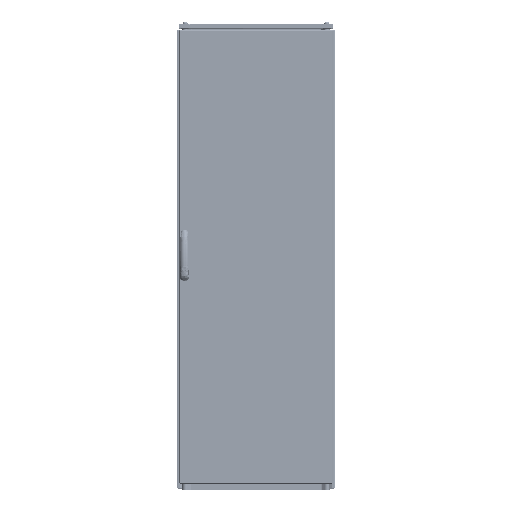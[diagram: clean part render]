
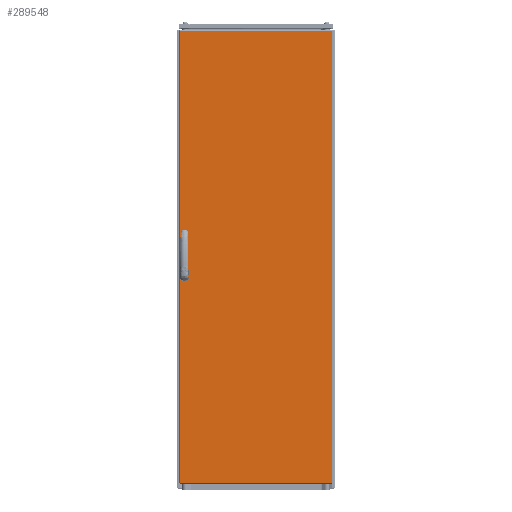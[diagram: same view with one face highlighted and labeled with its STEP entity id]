
A CAD part, top view. The second image highlights one B-rep face of the part: STEP entity #289548.
In plain terms, the highlighted planar face has unit normal (0, 0, 1).
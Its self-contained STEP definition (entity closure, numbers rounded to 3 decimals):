
#128 = VERTEX_POINT ( 'NONE', #95758 ) ;
#3573 = FACE_BOUND ( 'NONE', #244782, .T. ) ;
#5039 = PLANE ( 'NONE',  #92203 ) ;
#5046 = VECTOR ( 'NONE', #49650, 1000. ) ;
#14065 = CARTESIAN_POINT ( 'NONE',  ( 3., 3., 19. ) ) ;
#20223 = CARTESIAN_POINT ( 'NONE',  ( 28.7, 847.75, 19. ) ) ;
#24473 = CIRCLE ( 'NONE', #169659, 9.5 ) ;
#26195 = CARTESIAN_POINT ( 'NONE',  ( 9.7, 847.75, 19. ) ) ;
#29169 = DIRECTION ( 'NONE',  ( 0., 1., 0. ) ) ;
#29932 = CARTESIAN_POINT ( 'NONE',  ( 0., 3., 19. ) ) ;
#37055 = AXIS2_PLACEMENT_3D ( 'NONE', #47705, #159071, #205890 ) ;
#44498 = LINE ( 'NONE', #224695, #155573 ) ;
#47705 = CARTESIAN_POINT ( 'NONE',  ( 19.2, 799.75, 19. ) ) ;
#49075 = CARTESIAN_POINT ( 'NONE',  ( 0., 1760., 19. ) ) ;
#49240 = VECTOR ( 'NONE', #205917, 1000. ) ;
#49650 = DIRECTION ( 'NONE',  ( 0., -1., 0. ) ) ;
#51849 = ORIENTED_EDGE ( 'NONE', *, *, #237256, .F. ) ;
#54220 = CIRCLE ( 'NONE', #147738, 9.5 ) ;
#55984 = EDGE_CURVE ( 'NONE', #206019, #263860, #74028, .T. ) ;
#56935 = DIRECTION ( 'NONE',  ( 1., 0., 0. ) ) ;
#58014 = VERTEX_POINT ( 'NONE', #95298 ) ;
#62531 = CARTESIAN_POINT ( 'NONE',  ( 28.7, 912.25, 19. ) ) ;
#62631 = CARTESIAN_POINT ( 'NONE',  ( 28.7, 847.75, 19. ) ) ;
#64601 = VECTOR ( 'NONE', #95947, 1000. ) ;
#67574 = CARTESIAN_POINT ( 'NONE',  ( 9.7, 799.75, 19. ) ) ;
#67852 = CARTESIAN_POINT ( 'NONE',  ( 28.7, 960.25, 19. ) ) ;
#71764 = EDGE_CURVE ( 'NONE', #239098, #58014, #137696, .T. ) ;
#73386 = CARTESIAN_POINT ( 'NONE',  ( 9.7, 960.25, 19. ) ) ;
#73471 = VECTOR ( 'NONE', #140820, 1000. ) ;
#74028 = LINE ( 'NONE', #76929, #49240 ) ;
#76844 = LINE ( 'NONE', #29932, #64601 ) ;
#76929 = CARTESIAN_POINT ( 'NONE',  ( 28.7, 960.25, 19. ) ) ;
#77999 = CARTESIAN_POINT ( 'NONE',  ( 19.2, 847.75, 19. ) ) ;
#80030 = EDGE_CURVE ( 'NONE', #263860, #128, #54220, .T. ) ;
#85587 = CARTESIAN_POINT ( 'NONE',  ( 592., 3., 19. ) ) ;
#88506 = DIRECTION ( 'NONE',  ( 0., -1., 0. ) ) ;
#88776 = FACE_OUTER_BOUND ( 'NONE', #137859, .T. ) ;
#92203 = AXIS2_PLACEMENT_3D ( 'NONE', #49075, #138481, #178148 ) ;
#93061 = FACE_BOUND ( 'NONE', #230711, .T. ) ;
#93988 = EDGE_CURVE ( 'NONE', #207475, #240699, #210257, .T. ) ;
#94496 = EDGE_CURVE ( 'NONE', #245443, #256440, #280500, .T. ) ;
#95298 = CARTESIAN_POINT ( 'NONE',  ( 592., 1757., 19. ) ) ;
#95758 = CARTESIAN_POINT ( 'NONE',  ( 9.7, 960.25, 19. ) ) ;
#95947 = DIRECTION ( 'NONE',  ( 1., 0., 0. ) ) ;
#97077 = ORIENTED_EDGE ( 'NONE', *, *, #187707, .F. ) ;
#103822 = CARTESIAN_POINT ( 'NONE',  ( 19.2, 960.25, 19. ) ) ;
#106731 = VERTEX_POINT ( 'NONE', #114806 ) ;
#111570 = VERTEX_POINT ( 'NONE', #135654 ) ;
#114806 = CARTESIAN_POINT ( 'NONE',  ( 9.7, 912.25, 19. ) ) ;
#115536 = ORIENTED_EDGE ( 'NONE', *, *, #80030, .F. ) ;
#123554 = DIRECTION ( 'NONE',  ( -1., 0., 0. ) ) ;
#124990 = LINE ( 'NONE', #126449, #185674 ) ;
#126449 = CARTESIAN_POINT ( 'NONE',  ( 0., 1757., 19. ) ) ;
#126471 = ORIENTED_EDGE ( 'NONE', *, *, #213714, .T. ) ;
#127755 = EDGE_CURVE ( 'NONE', #111570, #149744, #44498, .T. ) ;
#129034 = ORIENTED_EDGE ( 'NONE', *, *, #186782, .F. ) ;
#131346 = CARTESIAN_POINT ( 'NONE',  ( 9.7, 847.75, 19. ) ) ;
#135583 = AXIS2_PLACEMENT_3D ( 'NONE', #77999, #234751, #148278 ) ;
#135654 = CARTESIAN_POINT ( 'NONE',  ( 3., 1757., 19. ) ) ;
#137696 = LINE ( 'NONE', #228476, #219146 ) ;
#137859 = EDGE_LOOP ( 'NONE', ( #245107, #126471, #235902, #198013 ) ) ;
#138481 = DIRECTION ( 'NONE',  ( 0., 0., -1. ) ) ;
#140210 = ORIENTED_EDGE ( 'NONE', *, *, #55984, .F. ) ;
#140820 = DIRECTION ( 'NONE',  ( 0., -1., 0. ) ) ;
#144029 = EDGE_CURVE ( 'NONE', #256440, #207475, #248945, .T. ) ;
#147738 = AXIS2_PLACEMENT_3D ( 'NONE', #103822, #190262, #56935 ) ;
#148278 = DIRECTION ( 'NONE',  ( 1., 0., 0. ) ) ;
#149071 = DIRECTION ( 'NONE',  ( 1., 0., 0. ) ) ;
#149744 = VERTEX_POINT ( 'NONE', #14065 ) ;
#155573 = VECTOR ( 'NONE', #88506, 1000. ) ;
#159071 = DIRECTION ( 'NONE',  ( 0., 0., 1. ) ) ;
#166982 = ORIENTED_EDGE ( 'NONE', *, *, #144029, .F. ) ;
#169659 = AXIS2_PLACEMENT_3D ( 'NONE', #263309, #286733, #149071 ) ;
#178148 = DIRECTION ( 'NONE',  ( -1., 0., 0. ) ) ;
#183305 = ORIENTED_EDGE ( 'NONE', *, *, #94496, .F. ) ;
#185674 = VECTOR ( 'NONE', #123554, 1000. ) ;
#186782 = EDGE_CURVE ( 'NONE', #106731, #206019, #24473, .T. ) ;
#187707 = EDGE_CURVE ( 'NONE', #240699, #245443, #217920, .T. ) ;
#190262 = DIRECTION ( 'NONE',  ( 0., 0., 1. ) ) ;
#198013 = ORIENTED_EDGE ( 'NONE', *, *, #263703, .T. ) ;
#205890 = DIRECTION ( 'NONE',  ( 1., 0., 0. ) ) ;
#205917 = DIRECTION ( 'NONE',  ( 0., 1., 0. ) ) ;
#206019 = VERTEX_POINT ( 'NONE', #62531 ) ;
#207475 = VERTEX_POINT ( 'NONE', #67574 ) ;
#210257 = CIRCLE ( 'NONE', #37055, 9.5 ) ;
#213714 = EDGE_CURVE ( 'NONE', #58014, #111570, #124990, .T. ) ;
#217920 = LINE ( 'NONE', #62631, #277578 ) ;
#219146 = VECTOR ( 'NONE', #29169, 1000. ) ;
#224695 = CARTESIAN_POINT ( 'NONE',  ( 3., 1760., 19. ) ) ;
#226932 = ORIENTED_EDGE ( 'NONE', *, *, #93988, .F. ) ;
#227565 = CARTESIAN_POINT ( 'NONE',  ( 28.7, 799.75, 19. ) ) ;
#228476 = CARTESIAN_POINT ( 'NONE',  ( 592., 1760., 19. ) ) ;
#230711 = EDGE_LOOP ( 'NONE', ( #51849, #115536, #140210, #129034 ) ) ;
#234751 = DIRECTION ( 'NONE',  ( 0., 0., 1. ) ) ;
#235902 = ORIENTED_EDGE ( 'NONE', *, *, #127755, .T. ) ;
#237256 = EDGE_CURVE ( 'NONE', #128, #106731, #269772, .T. ) ;
#239098 = VERTEX_POINT ( 'NONE', #85587 ) ;
#240699 = VERTEX_POINT ( 'NONE', #227565 ) ;
#244782 = EDGE_LOOP ( 'NONE', ( #166982, #183305, #97077, #226932 ) ) ;
#245107 = ORIENTED_EDGE ( 'NONE', *, *, #71764, .T. ) ;
#245443 = VERTEX_POINT ( 'NONE', #20223 ) ;
#248945 = LINE ( 'NONE', #26195, #5046 ) ;
#256440 = VERTEX_POINT ( 'NONE', #131346 ) ;
#263309 = CARTESIAN_POINT ( 'NONE',  ( 19.2, 912.25, 19. ) ) ;
#263703 = EDGE_CURVE ( 'NONE', #149744, #239098, #76844, .T. ) ;
#263860 = VERTEX_POINT ( 'NONE', #67852 ) ;
#269772 = LINE ( 'NONE', #73386, #73471 ) ;
#277578 = VECTOR ( 'NONE', #283854, 1000. ) ;
#280500 = CIRCLE ( 'NONE', #135583, 9.5 ) ;
#283854 = DIRECTION ( 'NONE',  ( 0., 1., 0. ) ) ;
#286733 = DIRECTION ( 'NONE',  ( 0., 0., 1. ) ) ;
#289548 = ADVANCED_FACE ( 'NONE', ( #3573, #93061, #88776 ), #5039, .F. ) ;
